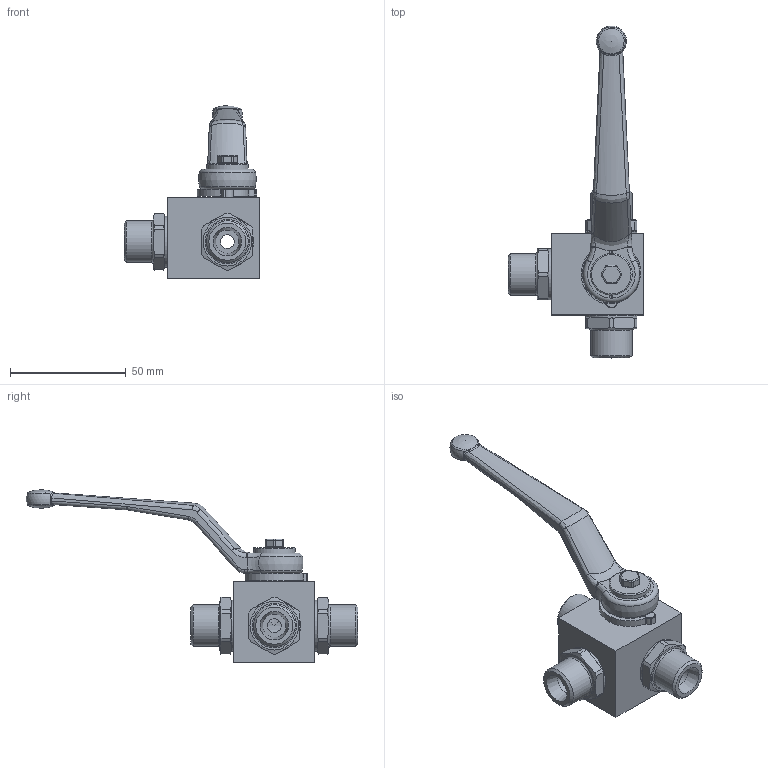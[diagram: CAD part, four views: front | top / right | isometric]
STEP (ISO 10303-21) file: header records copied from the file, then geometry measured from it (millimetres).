
FILE_DESCRIPTION( ( 'Unknown' ), '1' );
FILE_NAME( 'H:/PISTER/3D-MODELLE/BK3-Edelstahl stp/BK3-Edelst DN6 10S.stp', 'Unknown', ( 'Unknown' ), ( 'Unknown' ), 'PSStep 14.0', 'Unknown', ' ' );
FILE_SCHEMA( ( 'AUTOMOTIVE_DESIGN { 1 0 10303 214 1 1 1 1 }' ) );
Length unit declared in the file: millimetre
Products named in the file (11): Assem1; 56-032-337-oa5; 09-09-003; 58-28740-16-oa6; 58-0440-009; 06-008-007-oa8; 04-006-030-oa9; 04-006-030-oa10; 04-006-030-oa11; Griff_SW9; 01-008-020-oa12
Assembly tree (10 placements, depth 2):
  Assem1
    56-032-337-oa5
    09-09-003
    58-28740-16-oa6
    58-0440-009
    06-008-007-oa8
    04-006-030-oa9
    04-006-030-oa10
    04-006-030-oa11
    Griff_SW9
    01-008-020-oa12
Bounding box: 58.5 x 143 x 74.4 mm (x, y, z)
Volume: 60537.7 mm3; surface area: 26865.5 mm2
Topology: 10 solids, 10 shells, 368 faces, 907 edges, 568 vertices
Faces by surface type: cylinder 125, plane 123, cone 43, torus 37, bspline 36, sphere 4
Full cylindrical faces by diameter (mm): 4.134 x1, 4.98 x1, 5 x1, 5.8 x1, 6 x3, 7 x1, 10 x3, 14 x2, 17.1 x1, 18 x4, 18.376 x1, 18.5 x1, 20 x1, 20.3 x1, 21 x4, 22 x3, 22.5 x3
Entity records: 15184 total; most frequent: CARTESIAN_POINT 4031, DIRECTION 1671, ORIENTED_EDGE 1602, EDGE_CURVE 801, AXIS2_PLACEMENT_3D 688, VERTEX_POINT 533, EDGE_LOOP 466, FACE_OUTER_BOUND 413
